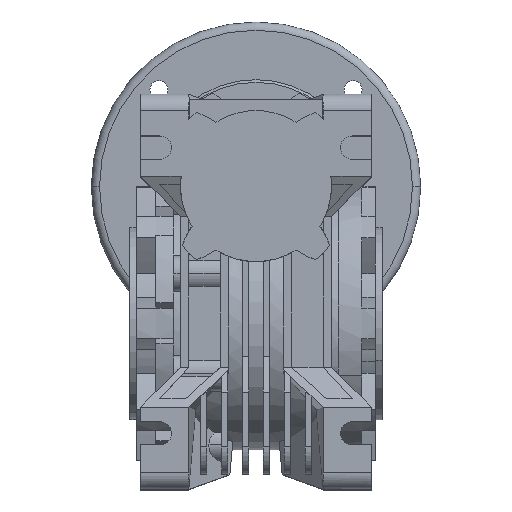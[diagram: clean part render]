
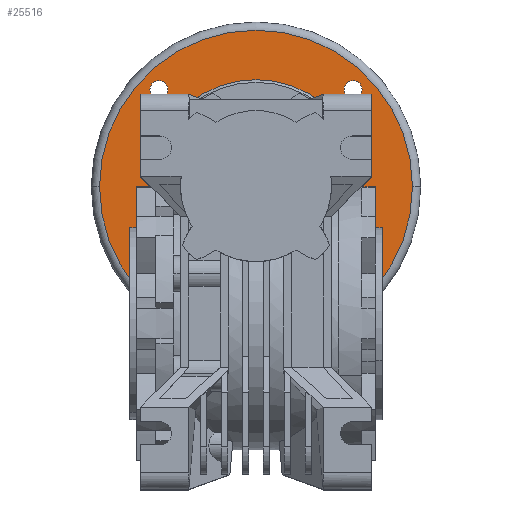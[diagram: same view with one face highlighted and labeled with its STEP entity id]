
A CAD part, top view. The second image highlights one B-rep face of the part: STEP entity #25516.
In plain terms, the highlighted planar face has unit normal (0, 0, 1).
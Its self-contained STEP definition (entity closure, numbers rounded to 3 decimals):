
#613 = DIRECTION ( 'NONE',  ( 0., 0., 1. ) ) ;
#1022 = CARTESIAN_POINT ( 'NONE',  ( 0., 50., -72. ) ) ;
#1308 = EDGE_CURVE ( 'NONE', #15163, #16685, #31850, .T. ) ;
#1797 = VERTEX_POINT ( 'NONE', #32443 ) ;
#2819 = CARTESIAN_POINT ( 'NONE',  ( 35.355, 85.355, -72. ) ) ;
#3060 = PLANE ( 'NONE',  #43937 ) ;
#4564 = CARTESIAN_POINT ( 'NONE',  ( -32.055, 85.355, -72. ) ) ;
#5049 = EDGE_LOOP ( 'NONE', ( #30030, #42131 ) ) ;
#5498 = FACE_BOUND ( 'NONE', #42868, .T. ) ;
#5560 = ORIENTED_EDGE ( 'NONE', *, *, #5618, .F. ) ;
#5618 = EDGE_CURVE ( 'NONE', #28907, #26804, #12444, .T. ) ;
#6208 = DIRECTION ( 'NONE',  ( -1., 0., 0. ) ) ;
#6274 = CARTESIAN_POINT ( 'NONE',  ( -38.655, 14.645, -72. ) ) ;
#6492 = AXIS2_PLACEMENT_3D ( 'NONE', #39679, #19409, #43052 ) ;
#6688 = CARTESIAN_POINT ( 'NONE',  ( -32.055, 14.645, -72. ) ) ;
#6931 = AXIS2_PLACEMENT_3D ( 'NONE', #30292, #9981, #33640 ) ;
#7302 = EDGE_CURVE ( 'NONE', #19355, #22021, #43532, .T. ) ;
#7488 = DIRECTION ( 'NONE',  ( 0., 0., 1. ) ) ;
#7939 = DIRECTION ( 'NONE',  ( 0., 0., -1. ) ) ;
#8015 = CIRCLE ( 'NONE', #6931, 3.3 ) ;
#9659 = DIRECTION ( 'NONE',  ( 1., 0., 0. ) ) ;
#9792 = DIRECTION ( 'NONE',  ( 0., 0., 1. ) ) ;
#9981 = DIRECTION ( 'NONE',  ( 0., 0., -1. ) ) ;
#10080 = CARTESIAN_POINT ( 'NONE',  ( 0., 50., -72. ) ) ;
#10885 = CARTESIAN_POINT ( 'NONE',  ( -38.655, 85.355, -72. ) ) ;
#11078 = DIRECTION ( 'NONE',  ( 0., 0., -1. ) ) ;
#11262 = AXIS2_PLACEMENT_3D ( 'NONE', #27829, #7488, #31233 ) ;
#12184 = CARTESIAN_POINT ( 'NONE',  ( 57., 50., -72. ) ) ;
#12440 = EDGE_LOOP ( 'NONE', ( #21428, #17201 ) ) ;
#12444 = CIRCLE ( 'NONE', #32141, 39. ) ;
#13446 = CIRCLE ( 'NONE', #26166, 3.3 ) ;
#14551 = FACE_BOUND ( 'NONE', #23562, .T. ) ;
#15163 = VERTEX_POINT ( 'NONE', #6688 ) ;
#15261 = DIRECTION ( 'NONE',  ( 0., 0., -1. ) ) ;
#15298 = EDGE_CURVE ( 'NONE', #22021, #19355, #34522, .T. ) ;
#15571 = EDGE_CURVE ( 'NONE', #23871, #33199, #8015, .T. ) ;
#15777 = CARTESIAN_POINT ( 'NONE',  ( 32.055, 14.645, -72. ) ) ;
#15801 = DIRECTION ( 'NONE',  ( 1., 0., 0. ) ) ;
#15849 = DIRECTION ( 'NONE',  ( 0., 0., 1. ) ) ;
#16289 = EDGE_CURVE ( 'NONE', #26804, #28907, #16452, .T. ) ;
#16452 = CIRCLE ( 'NONE', #11262, 39. ) ;
#16685 = VERTEX_POINT ( 'NONE', #6274 ) ;
#17201 = ORIENTED_EDGE ( 'NONE', *, *, #20921, .T. ) ;
#17561 = CIRCLE ( 'NONE', #27696, 3.3 ) ;
#17695 = CARTESIAN_POINT ( 'NONE',  ( -57., 50., -72. ) ) ;
#19200 = VERTEX_POINT ( 'NONE', #36797 ) ;
#19355 = VERTEX_POINT ( 'NONE', #17695 ) ;
#19409 = DIRECTION ( 'NONE',  ( 0., 0., -1. ) ) ;
#20177 = CARTESIAN_POINT ( 'NONE',  ( 35.355, 85.355, -72. ) ) ;
#20921 = EDGE_CURVE ( 'NONE', #33199, #23871, #13446, .T. ) ;
#20937 = CARTESIAN_POINT ( 'NONE',  ( 0., 50., -72. ) ) ;
#21428 = ORIENTED_EDGE ( 'NONE', *, *, #15571, .T. ) ;
#21840 = AXIS2_PLACEMENT_3D ( 'NONE', #32612, #32518, #32474 ) ;
#22021 = VERTEX_POINT ( 'NONE', #12184 ) ;
#22544 = ORIENTED_EDGE ( 'NONE', *, *, #35371, .T. ) ;
#22873 = EDGE_LOOP ( 'NONE', ( #5560, #33668 ) ) ;
#23525 = FACE_BOUND ( 'NONE', #22873, .T. ) ;
#23538 = DIRECTION ( 'NONE',  ( -1., 0., 0. ) ) ;
#23562 = EDGE_LOOP ( 'NONE', ( #28403, #30499 ) ) ;
#23871 = VERTEX_POINT ( 'NONE', #10885 ) ;
#24311 = EDGE_CURVE ( 'NONE', #42091, #19200, #35287, .T. ) ;
#24347 = DIRECTION ( 'NONE',  ( 1., 0., 0. ) ) ;
#24426 = CARTESIAN_POINT ( 'NONE',  ( -39., 50., -72. ) ) ;
#24537 = AXIS2_PLACEMENT_3D ( 'NONE', #20937, #613, #24347 ) ;
#24640 = EDGE_CURVE ( 'NONE', #16685, #15163, #39505, .T. ) ;
#25516 = ADVANCED_FACE ( 'NONE', ( #32557, #5498, #41516, #14551, #23525, #40480 ), #3060, .F. ) ;
#25615 = CIRCLE ( 'NONE', #6492, 3.3 ) ;
#25915 = VERTEX_POINT ( 'NONE', #15777 ) ;
#26166 = AXIS2_PLACEMENT_3D ( 'NONE', #28277, #7939, #31683 ) ;
#26553 = DIRECTION ( 'NONE',  ( 0., 0., -1. ) ) ;
#26797 = CARTESIAN_POINT ( 'NONE',  ( 0., 107., -72. ) ) ;
#26804 = VERTEX_POINT ( 'NONE', #24426 ) ;
#27223 = ORIENTED_EDGE ( 'NONE', *, *, #33732, .T. ) ;
#27696 = AXIS2_PLACEMENT_3D ( 'NONE', #2819, #26553, #6208 ) ;
#27829 = CARTESIAN_POINT ( 'NONE',  ( 0., 50., -72. ) ) ;
#28080 = CARTESIAN_POINT ( 'NONE',  ( 38.655, 85.355, -72. ) ) ;
#28277 = CARTESIAN_POINT ( 'NONE',  ( -35.355, 85.355, -72. ) ) ;
#28403 = ORIENTED_EDGE ( 'NONE', *, *, #32321, .T. ) ;
#28907 = VERTEX_POINT ( 'NONE', #42258 ) ;
#28974 = EDGE_LOOP ( 'NONE', ( #27223, #22544 ) ) ;
#30030 = ORIENTED_EDGE ( 'NONE', *, *, #15298, .T. ) ;
#30080 = DIRECTION ( 'NONE',  ( 0., 0., -1. ) ) ;
#30228 = DIRECTION ( 'NONE',  ( -1., 0., 0. ) ) ;
#30292 = CARTESIAN_POINT ( 'NONE',  ( -35.355, 85.355, -72. ) ) ;
#30499 = ORIENTED_EDGE ( 'NONE', *, *, #24311, .T. ) ;
#31027 = ORIENTED_EDGE ( 'NONE', *, *, #1308, .T. ) ;
#31233 = DIRECTION ( 'NONE',  ( 1., 0., 0. ) ) ;
#31369 = CARTESIAN_POINT ( 'NONE',  ( 35.355, 14.645, -72. ) ) ;
#31683 = DIRECTION ( 'NONE',  ( -1., 0., 0. ) ) ;
#31850 = CIRCLE ( 'NONE', #21840, 3.3 ) ;
#32141 = AXIS2_PLACEMENT_3D ( 'NONE', #10080, #9792, #9659 ) ;
#32289 = AXIS2_PLACEMENT_3D ( 'NONE', #20177, #43841, #23538 ) ;
#32321 = EDGE_CURVE ( 'NONE', #19200, #42091, #17561, .T. ) ;
#32443 = CARTESIAN_POINT ( 'NONE',  ( 38.655, 14.645, -72. ) ) ;
#32474 = DIRECTION ( 'NONE',  ( -1., 0., 0. ) ) ;
#32518 = DIRECTION ( 'NONE',  ( 0., 0., -1. ) ) ;
#32557 = FACE_BOUND ( 'NONE', #28974, .T. ) ;
#32612 = CARTESIAN_POINT ( 'NONE',  ( -35.355, 14.645, -72. ) ) ;
#33199 = VERTEX_POINT ( 'NONE', #4564 ) ;
#33640 = DIRECTION ( 'NONE',  ( -1., 0., 0. ) ) ;
#33668 = ORIENTED_EDGE ( 'NONE', *, *, #16289, .F. ) ;
#33690 = AXIS2_PLACEMENT_3D ( 'NONE', #35508, #15261, #38906 ) ;
#33703 = AXIS2_PLACEMENT_3D ( 'NONE', #31369, #11078, #34727 ) ;
#33732 = EDGE_CURVE ( 'NONE', #25915, #1797, #42909, .T. ) ;
#34522 = CIRCLE ( 'NONE', #24537, 57. ) ;
#34727 = DIRECTION ( 'NONE',  ( -1., 0., 0. ) ) ;
#35287 = CIRCLE ( 'NONE', #32289, 3.3 ) ;
#35371 = EDGE_CURVE ( 'NONE', #1797, #25915, #25615, .T. ) ;
#35508 = CARTESIAN_POINT ( 'NONE',  ( -35.355, 14.645, -72. ) ) ;
#36797 = CARTESIAN_POINT ( 'NONE',  ( 32.055, 85.355, -72. ) ) ;
#37557 = AXIS2_PLACEMENT_3D ( 'NONE', #1022, #15849, #15801 ) ;
#38906 = DIRECTION ( 'NONE',  ( -1., 0., 0. ) ) ;
#39505 = CIRCLE ( 'NONE', #33690, 3.3 ) ;
#39679 = CARTESIAN_POINT ( 'NONE',  ( 35.355, 14.645, -72. ) ) ;
#40480 = FACE_OUTER_BOUND ( 'NONE', #5049, .T. ) ;
#41516 = FACE_BOUND ( 'NONE', #12440, .T. ) ;
#42004 = ORIENTED_EDGE ( 'NONE', *, *, #24640, .T. ) ;
#42091 = VERTEX_POINT ( 'NONE', #28080 ) ;
#42131 = ORIENTED_EDGE ( 'NONE', *, *, #7302, .T. ) ;
#42258 = CARTESIAN_POINT ( 'NONE',  ( 39., 50., -72. ) ) ;
#42868 = EDGE_LOOP ( 'NONE', ( #42004, #31027 ) ) ;
#42909 = CIRCLE ( 'NONE', #33703, 3.3 ) ;
#43052 = DIRECTION ( 'NONE',  ( -1., 0., 0. ) ) ;
#43532 = CIRCLE ( 'NONE', #37557, 57. ) ;
#43841 = DIRECTION ( 'NONE',  ( 0., 0., -1. ) ) ;
#43937 = AXIS2_PLACEMENT_3D ( 'NONE', #26797, #30080, #30228 ) ;
